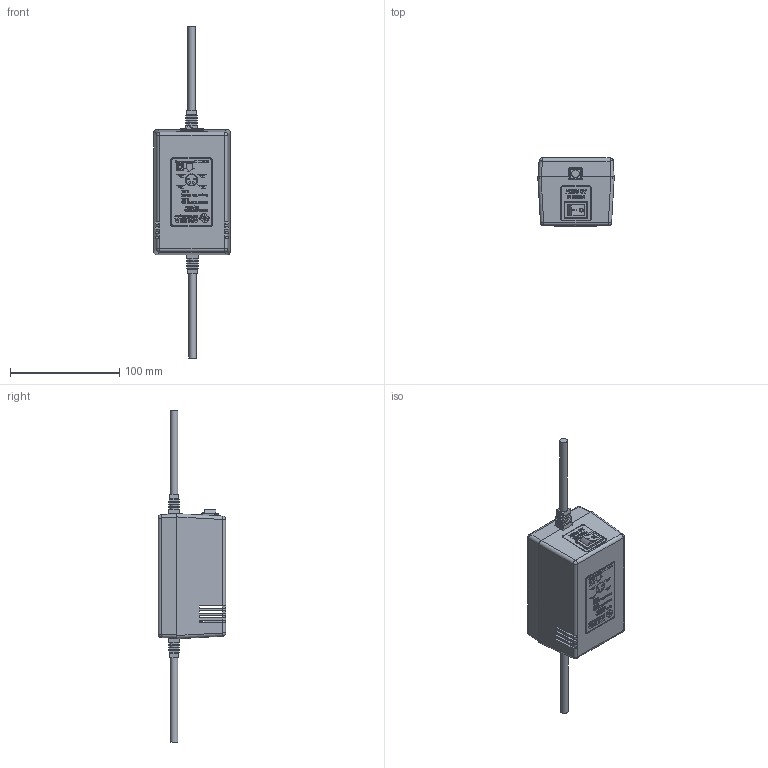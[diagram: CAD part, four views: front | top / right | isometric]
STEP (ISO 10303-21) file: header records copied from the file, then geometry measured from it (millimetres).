
FILE_DESCRIPTION(/* description */ (''),/* implementation_level */ '2;1');
FILE_NAME(/* name */ 'Y:\IvDoronin\- Фотоприемники -\- Модели -\4. Аксесуары для фотоприемников\AC.DC_Adapter_9V-0,3Ах2\СБП1-17.002 МС Сетевой блок питания. Корпус Z16_Shrinkwrap 9V-0,3Ax2.stp',/* time_stamp */ '2019-09-13T18:42:05+03:00',/* author */ ('svlad'),/* organization */ (''),/* preprocessor_version */ 'ST-DEVELOPER v17',/* originating_system */ 'Autodesk Inventor 2019',/* authorisation */ '');
FILE_SCHEMA (('AUTOMOTIVE_DESIGN { 1 0 10303 214 3 1 1 }'));
Products named in the file (1): СБП1-17.002 МС Сетевой 
блок питания. Корпус 
Z16_Shrinkwrap 9V-0,3Ax2
Bounding box: 70.05 x 62.3 x 304.25 mm (x, y, z)
Volume: 118560.3 mm3; surface area: 86444.8 mm2
Topology: 1 solids, 1 shells, 2456 faces, 6696 edges, 4438 vertices
Faces by surface type: plane 1665, bspline 548, cylinder 211, sphere 16, cone 12, torus 4
Full cylindrical faces by diameter (mm): 1.8 x2, 2 x2, 2.3 x4, 2.4 x4, 3.9 x4, 6 x4, 7 x2
Entity records: 89573 total; most frequent: CARTESIAN_POINT 28122, ORIENTED_EDGE 13374, DIRECTION 9879, EDGE_CURVE 6687, LINE 5105, VECTOR 5105, VERTEX_POINT 4438, EDGE_LOOP 2707
